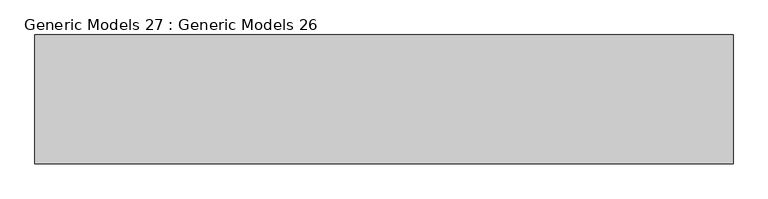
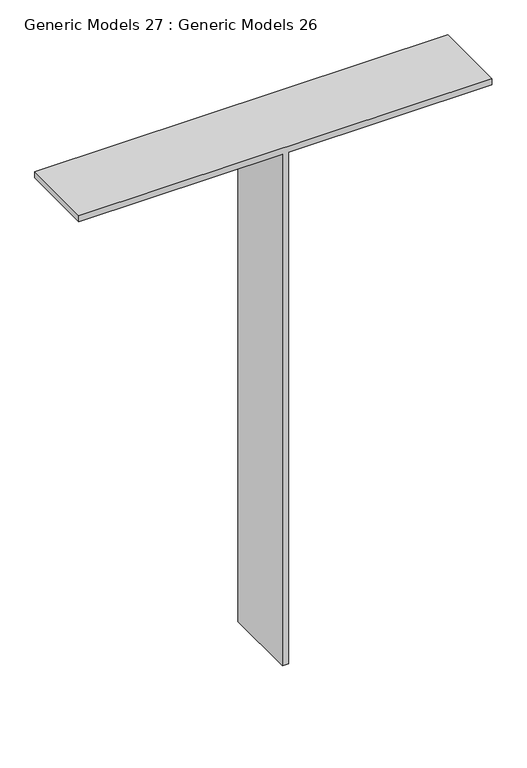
"""IFC4 building model written with IfcOpenShell, lengths in millimetres: furniture geometry, Generic Models 27 : Generic Models 26."""

from ifc_helpers import new_model, si_unit, frame, origin, place, context, project, spatial, polyline, outline, extrude, source, transform, mapped, element, save


def generic_models_27_generic_models_26_e044adbe(model_context):
    return source(origin(), model_context, "Body", "SweptSolid", [
        extrude(outline(polyline([(3251.2, 3238.5), (3251.2, 3263.9), (5410.2, 3263.9), (5410.2, 4076.7), (5435.6, 4076.7), (5435.6, 2425.7), (5410.2, 2425.7), (5410.2, 3238.5), (3251.2, 3238.5)])), frame((0.0, 14122.2947939, 0.0), z_axis=(0.0, 1.0, 0.0), x_axis=(0.0, 0.0, 1.0)), (0.0, 0.0, 1.0), 304.8),
    ])


if __name__ == "__main__":
    model = new_model("IFC4")
    model_context = context("Model", 3, world=origin())
    ifc_project = project(units=[si_unit("LENGTHUNIT", "METRE", prefix="MILLI")], contexts=[model_context])
    site = spatial("IfcSite", under=ifc_project)
    building = spatial("IfcBuilding", under=site)
    placement = place(None, origin())
    generic_models_27_generic_models_26_shape = generic_models_27_generic_models_26_e044adbe(model_context)
    element("IfcFurniture", 1, ObjectType="Generic Models 27 : Generic Models 26", at=placement, inside=building, context=model_context, shape_type="MappedRepresentation", body=[
        mapped(generic_models_27_generic_models_26_shape, transform((0.0, 0.0, 0.0), x_axis=(1.0, 0.0, 0.0), y_axis=(0.0, 1.0, 0.0), z_axis=(0.0, 0.0, 1.0))),
    ])
    save(model, "model.ifc")
